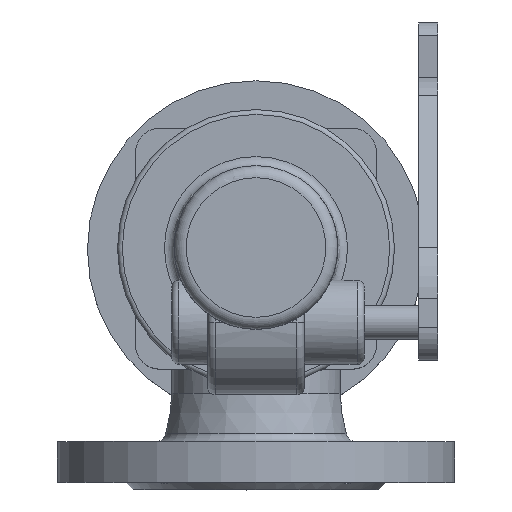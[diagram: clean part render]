
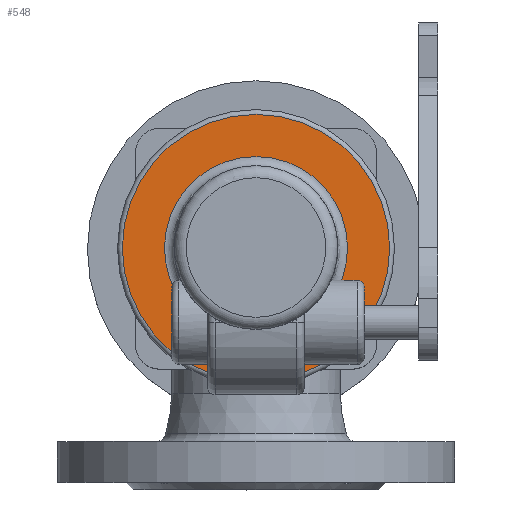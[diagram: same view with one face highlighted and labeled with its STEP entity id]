
A CAD part, top view. The second image highlights one B-rep face of the part: STEP entity #548.
In plain terms, the highlighted planar face has unit normal (0, 0, 1).
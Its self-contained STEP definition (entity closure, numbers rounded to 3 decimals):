
#548=ADVANCED_FACE('',(#1710,#1712),#1714,.T.);
#1710=FACE_BOUND('',#1711,.T.);
#1711=EDGE_LOOP('',(#2645,#2646));
#1712=FACE_BOUND('',#1713,.T.);
#1713=EDGE_LOOP('',(#2647,#2648,#2649,#2650));
#1714=PLANE('',#1715);
#1715=AXIS2_PLACEMENT_3D('',#1716,#1717,#1718);
#1716=CARTESIAN_POINT('',(0.,0.,322.));
#1717=DIRECTION('',(0.,0.,1.));
#1718=DIRECTION('',(0.,-1.,0.));
#2645=ORIENTED_EDGE('',*,*,#3198,.T.);
#2646=ORIENTED_EDGE('',*,*,#3199,.T.);
#2647=ORIENTED_EDGE('',*,*,#3204,.F.);
#2648=ORIENTED_EDGE('',*,*,#3205,.F.);
#2649=ORIENTED_EDGE('',*,*,#3206,.F.);
#2650=ORIENTED_EDGE('',*,*,#3207,.F.);
#3198=EDGE_CURVE('',#3645,#3646,#3647,.T.);
#3199=EDGE_CURVE('',#3646,#3645,#3648,.T.);
#3204=EDGE_CURVE('',#3657,#3658,#3659,.T.);
#3205=EDGE_CURVE('',#3660,#3657,#3661,.F.);
#3206=EDGE_CURVE('',#3662,#3660,#3663,.T.);
#3207=EDGE_CURVE('',#3658,#3662,#3664,.T.);
#3645=VERTEX_POINT('',#5003);
#3646=VERTEX_POINT('',#5004);
#3647=CIRCLE('',#5005,55.5);
#3648=CIRCLE('',#5009,55.5);
#3657=VERTEX_POINT('',#5033);
#3658=VERTEX_POINT('',#5034);
#3659=LINE('',#5035,#5036);
#3660=VERTEX_POINT('',#5038);
#3661=LINE('',#5039,#5040);
#3662=VERTEX_POINT('',#5042);
#3663=CIRCLE('',#5043,38.);
#3664=LINE('',#5047,#5048);
#5003=CARTESIAN_POINT('',(0.,-55.5,322.));
#5004=CARTESIAN_POINT('',(0.,55.5,322.));
#5005=AXIS2_PLACEMENT_3D('',#5006,#5007,#5008);
#5006=CARTESIAN_POINT('',(0.,0.,322.));
#5007=DIRECTION('',(0.,0.,1.));
#5008=DIRECTION('',(0.,-1.,0.));
#5009=AXIS2_PLACEMENT_3D('',#5010,#5011,#5012);
#5010=CARTESIAN_POINT('',(0.,0.,322.));
#5011=DIRECTION('',(0.,0.,1.));
#5012=DIRECTION('',(0.,1.,0.));
#5033=CARTESIAN_POINT('',(-8.,-42.,322.));
#5034=CARTESIAN_POINT('',(8.,-42.,322.));
#5035=CARTESIAN_POINT('',(-8.,-42.,322.));
#5036=VECTOR('',#5037,1.);
#5037=DIRECTION('',(1.,0.,0.));
#5038=CARTESIAN_POINT('',(-8.,-37.148,322.));
#5039=CARTESIAN_POINT('',(-8.,-42.,322.));
#5040=VECTOR('',#5041,1.);
#5041=DIRECTION('',(0.,1.,0.));
#5042=CARTESIAN_POINT('',(8.,-37.148,322.));
#5043=AXIS2_PLACEMENT_3D('',#5044,#5045,#5046);
#5044=CARTESIAN_POINT('',(0.,0.,322.));
#5045=DIRECTION('',(0.,0.,1.));
#5046=DIRECTION('',(0.211,-0.978,0.));
#5047=CARTESIAN_POINT('',(8.,-42.,322.));
#5048=VECTOR('',#5049,1.);
#5049=DIRECTION('',(0.,1.,0.));
